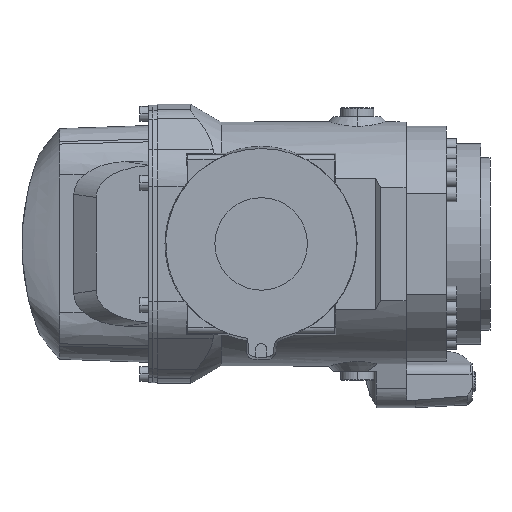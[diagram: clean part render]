
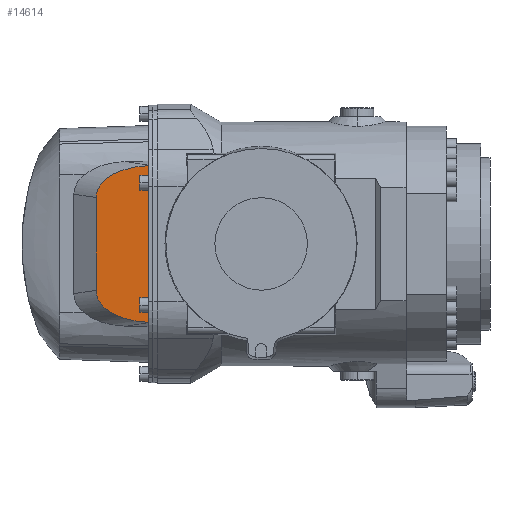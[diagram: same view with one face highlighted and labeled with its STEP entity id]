
A CAD part, front view. The second image highlights one B-rep face of the part: STEP entity #14614.
In plain terms, the highlighted planar face has unit normal (-0.035, -0.999, 0).
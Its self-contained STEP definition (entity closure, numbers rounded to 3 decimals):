
#488 = CARTESIAN_POINT ( 'NONE',  ( 1675.5, -45.325, 1844.858 ) ) ;
#1119 = DIRECTION ( 'NONE',  ( 0., 0., 1. ) ) ;
#1327 = LINE ( 'NONE', #8705, #18505 ) ;
#1432 = EDGE_CURVE ( 'NONE', #9925, #13242, #9660, .T. ) ;
#1799 = CARTESIAN_POINT ( 'NONE',  ( 1645.5, -44.278, 1826.557 ) ) ;
#1991 = VECTOR ( 'NONE', #1119, 1000. ) ;
#2167 = EDGE_LOOP ( 'NONE', ( #14190, #13753, #12215, #8829 ) ) ;
#3044 = DIRECTION ( 'NONE',  ( 0.999, -0.035, 0. ) ) ;
#3244 = PLANE ( 'NONE',  #9684 ) ;
#4656 = CARTESIAN_POINT ( 'NONE',  ( 1680.5, -45.5, 1845. ) ) ;
#5463 = LINE ( 'NONE', #17166, #1991 ) ;
#6056 = CARTESIAN_POINT ( 'NONE',  ( 1657.103, -44.683, 1844.089 ) ) ;
#7213 = CARTESIAN_POINT ( 'NONE',  ( 1645.5, -44.278, 1773.443 ) ) ;
#7788 = CARTESIAN_POINT ( 'NONE',  ( 1645.5, -44.278, 1773.443 ) ) ;
#7986 = EDGE_CURVE ( 'NONE', #13242, #15830, #1327, .T. ) ;
#8083 = VERTEX_POINT ( 'NONE', #17109 ) ;
#8705 = CARTESIAN_POINT ( 'NONE',  ( 1645.5, -44.278, 1800. ) ) ;
#8820 =( BOUNDED_CURVE ( )  B_SPLINE_CURVE ( 3, ( #7213, #14386, #15814, #12966 ),
 .UNSPECIFIED., .F., .F. ) 
 B_SPLINE_CURVE_WITH_KNOTS ( ( 4, 4 ),
 ( 6.203, 7.514 ),
 .UNSPECIFIED. ) 
 CURVE ( )  GEOMETRIC_REPRESENTATION_ITEM ( )  RATIONAL_B_SPLINE_CURVE ( ( 1., 0.862, 0.862, 1. ) ) 
 REPRESENTATION_ITEM ( '' )  );
#8829 = ORIENTED_EDGE ( 'NONE', *, *, #7986, .T. ) ;
#8916 = DIRECTION ( 'NONE',  ( -0.035, -0.999, 0. ) ) ;
#9660 =( BOUNDED_CURVE ( )  B_SPLINE_CURVE ( 3, ( #488, #6056, #14556, #1799 ),
 .UNSPECIFIED., .F., .F. ) 
 B_SPLINE_CURVE_WITH_KNOTS ( ( 4, 4 ),
 ( 1.91, 3.221 ),
 .UNSPECIFIED. ) 
 CURVE ( )  GEOMETRIC_REPRESENTATION_ITEM ( )  RATIONAL_B_SPLINE_CURVE ( ( 1., 0.862, 0.862, 1. ) ) 
 REPRESENTATION_ITEM ( '' )  );
#9684 = AXIS2_PLACEMENT_3D ( 'NONE', #4656, #8916, #3044 ) ;
#9925 = VERTEX_POINT ( 'NONE', #15409 ) ;
#12215 = ORIENTED_EDGE ( 'NONE', *, *, #1432, .T. ) ;
#12653 = EDGE_CURVE ( 'NONE', #8083, #9925, #5463, .T. ) ;
#12966 = CARTESIAN_POINT ( 'NONE',  ( 1675.5, -45.325, 1755.142 ) ) ;
#13242 = VERTEX_POINT ( 'NONE', #18003 ) ;
#13753 = ORIENTED_EDGE ( 'NONE', *, *, #12653, .T. ) ;
#14180 = DIRECTION ( 'NONE',  ( 0., 0., -1. ) ) ;
#14190 = ORIENTED_EDGE ( 'NONE', *, *, #15656, .T. ) ;
#14386 = CARTESIAN_POINT ( 'NONE',  ( 1645.5, -44.278, 1762.99 ) ) ;
#14556 = CARTESIAN_POINT ( 'NONE',  ( 1645.5, -44.278, 1837.01 ) ) ;
#14569 = FACE_OUTER_BOUND ( 'NONE', #2167, .T. ) ;
#14614 = ADVANCED_FACE ( 'NONE', ( #14569 ), #3244, .T. ) ;
#15409 = CARTESIAN_POINT ( 'NONE',  ( 1675.5, -45.325, 1844.858 ) ) ;
#15656 = EDGE_CURVE ( 'NONE', #15830, #8083, #8820, .T. ) ;
#15814 = CARTESIAN_POINT ( 'NONE',  ( 1657.103, -44.683, 1755.911 ) ) ;
#15830 = VERTEX_POINT ( 'NONE', #7788 ) ;
#17109 = CARTESIAN_POINT ( 'NONE',  ( 1675.5, -45.325, 1755.142 ) ) ;
#17166 = CARTESIAN_POINT ( 'NONE',  ( 1675.5, -45.325, 1845. ) ) ;
#18003 = CARTESIAN_POINT ( 'NONE',  ( 1645.5, -44.278, 1826.557 ) ) ;
#18505 = VECTOR ( 'NONE', #14180, 1000. ) ;
